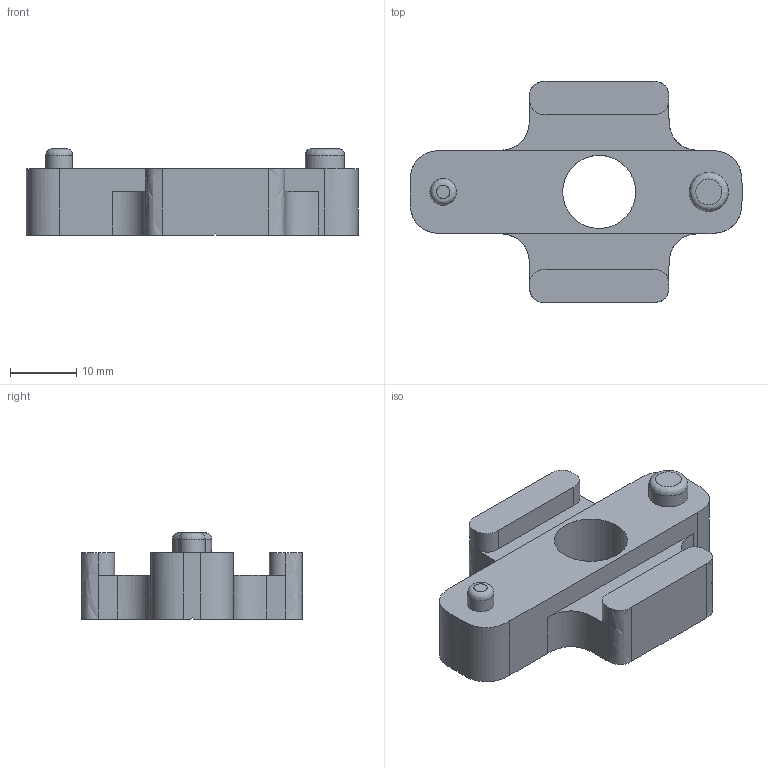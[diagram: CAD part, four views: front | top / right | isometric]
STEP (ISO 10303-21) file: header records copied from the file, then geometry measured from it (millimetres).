
FILE_DESCRIPTION(/* description */ ('STEP AP242 Edition 2','CAx-IF Rec.Pracs.---Representation and Presentation of Product Manufacturing Information (PMI)---4.0---2014-10-13','CAx-IF Rec.Pracs.---3D Tessellated Geometry---0.4---2014-09-14','2;1','CAx-IF Rec.Pracs.---User Defined Attributes---1.5---2016-08-15'),/* implementation_level */ '2;1');
FILE_NAME(/* name */ 'Part Studio 1 - Rear Jig',/* time_stamp */ '2026-05-25T22:13:33Z',/* author */ (''),/* organization */ (''),/* preprocessor_version */ 'ST-DEVELOPER v20',/* originating_system */ 'ONSHAPE BY PTC INC, 1.215',/* authorisation */ ' ');
FILE_SCHEMA (('AP242_MANAGED_MODEL_BASED_3D_ENGINEERING_MIM_LF { 1 0 10303 442 3 1 4 }'));
Length unit declared in the file: metre
Products named in the file (1): Rear Jig
Bounding box: 50 x 33.3 x 13 mm (x, y, z)
Volume: 8892.7 mm3; surface area: 4076.8 mm2
Topology: 1 solids, 1 shells, 102 faces, 264 edges, 167 vertices
Faces by surface type: plane 63, bspline 29, cylinder 6, cone 4
Full cylindrical faces by diameter (mm): 4 x1, 5.9 x1, 11 x1
Entity records: 4086 total; most frequent: CARTESIAN_POINT 1871, ORIENTED_EDGE 518, DIRECTION 325, EDGE_CURVE 259, VERTEX_POINT 167, LINE 141, VECTOR 141, EDGE_LOOP 112
